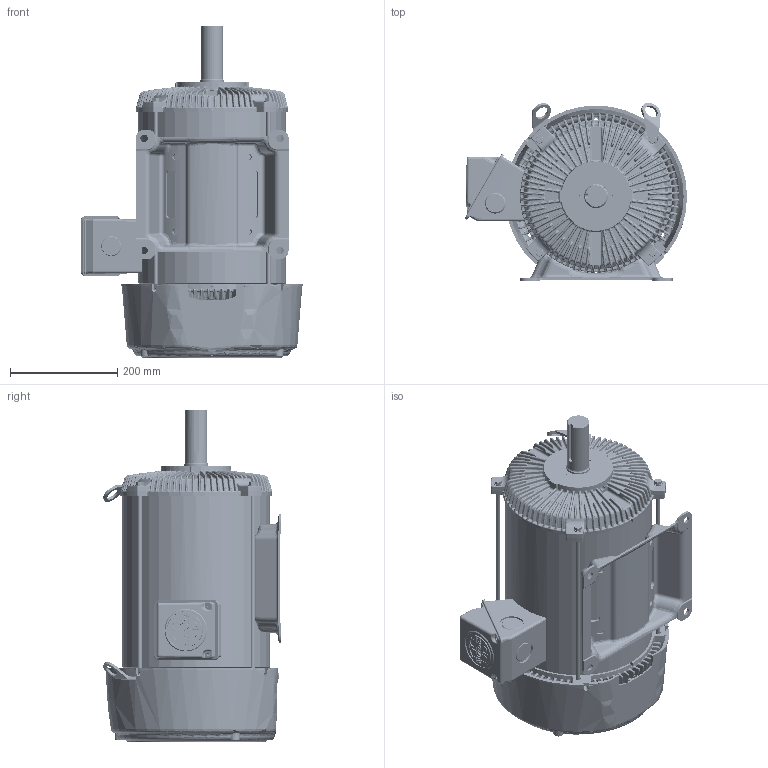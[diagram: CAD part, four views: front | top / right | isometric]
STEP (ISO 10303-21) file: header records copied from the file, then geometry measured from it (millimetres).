
FILE_DESCRIPTION((''),'2;1');
FILE_NAME('250RS_ASSY_ASM','2021-02-27T16:53:26',('EMD2341'),('Nidec Motor Corporation'),'CREO PARAMETRIC BY PTC INC, 2019080','CREO PARAMETRIC BY PTC INC, 2019080','');
FILE_SCHEMA(('CONFIG_CONTROL_DESIGN'));
Length unit declared in the file: inch
Products named in the file (19): 2076797_AF0; 0375099-BKT_AF11; 2033996-004_AF1; 2078169_ASM; 0375097-BKT_AF12; 2033996-005_AF1; 2078170_ASM; 0172877; 0373868; 0356644; 0587751; 0369733; 0390756; 0041590; 0364285; 0364229; 0364236; 0380742; 250RS_ASSY_ASM
Assembly tree (25 placements, depth 3):
  250RS_ASSY_ASM
    2076797_AF0
    2078169_ASM
      0375099-BKT_AF11
      2033996-004_AF1
    2078170_ASM
      0375097-BKT_AF12
      2033996-005_AF1
    0172877
    0373868
    0356644
    0587751
    0369733  x2
    0390756  x4
    0041590  x4
    0364285
    0364229
    0364236
    0380742
Bounding box: 414.87 x 332.47 x 620.08 mm (x, y, z)
Volume: 5652391 mm3; surface area: 2098048.1 mm2
Topology: 27 solids, 33 shells, 13024 faces, 30180 edges, 17215 vertices
Faces by surface type: bspline 7712, plane 1486, cylinder 1419, torus 1301, cone 772, sphere 334
Entity records: 715877 total; most frequent: CARTESIAN_POINT 475241, ORIENTED_EDGE 59624, DIRECTION 36574, EDGE_CURVE 29818, VERTEX_POINT 17005, AXIS2_PLACEMENT_3D 15500, B_SPLINE_CURVE_WITH_KNOTS 13950, EDGE_LOOP 13103
